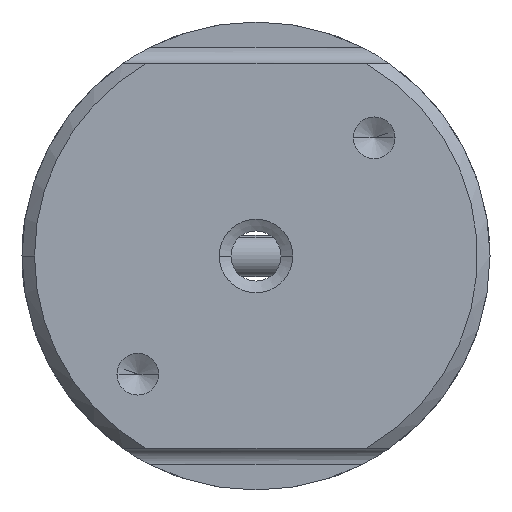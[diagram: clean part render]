
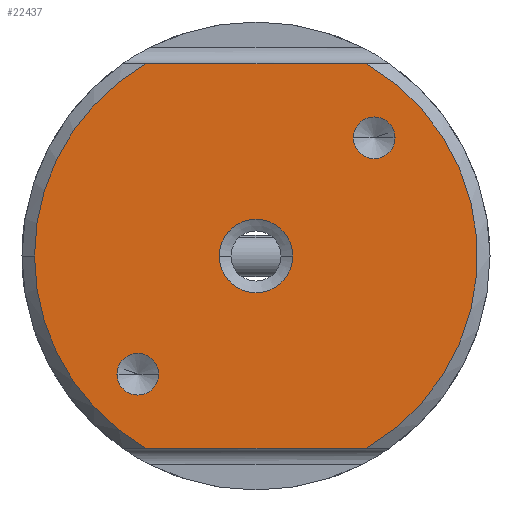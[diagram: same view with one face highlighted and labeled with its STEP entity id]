
A CAD part, front view. The second image highlights one B-rep face of the part: STEP entity #22437.
In plain terms, the highlighted planar face has unit normal (0, -1, 0).
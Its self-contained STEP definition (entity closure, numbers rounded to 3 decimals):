
#101 = CARTESIAN_POINT ( 'NONE',  ( 15., -20.5, 23. ) ) ;
#196 = CARTESIAN_POINT ( 'NONE',  ( 28.162, -20.5, 46. ) ) ;
#473 = VERTEX_POINT ( 'NONE', #4104 ) ;
#797 = EDGE_CURVE ( 'NONE', #8385, #9896, #20610, .T. ) ;
#872 = EDGE_LOOP ( 'NONE', ( #22904, #3312 ) ) ;
#963 = AXIS2_PLACEMENT_3D ( 'NONE', #12380, #1464, #14188 ) ;
#1156 = VECTOR ( 'NONE', #2884, 1000. ) ;
#1274 = EDGE_CURVE ( 'NONE', #21448, #3557, #2728, .T. ) ;
#1393 = AXIS2_PLACEMENT_3D ( 'NONE', #16392, #5504, #18206 ) ;
#1464 = DIRECTION ( 'NONE',  ( 0., 1., 0. ) ) ;
#1676 = AXIS2_PLACEMENT_3D ( 'NONE', #6188, #18896, #8018 ) ;
#1681 = CIRCLE ( 'NONE', #22851, 26.5 ) ;
#1947 = DIRECTION ( 'NONE',  ( 0., 0., 1. ) ) ;
#2400 = CARTESIAN_POINT ( 'NONE',  ( 15., -20.5, 23. ) ) ;
#2674 = ORIENTED_EDGE ( 'NONE', *, *, #22179, .T. ) ;
#2728 = CIRCLE ( 'NONE', #17925, 2.5 ) ;
#2884 = DIRECTION ( 'NONE',  ( 1., 0., 0. ) ) ;
#3312 = ORIENTED_EDGE ( 'NONE', *, *, #1274, .T. ) ;
#3557 = VERTEX_POINT ( 'NONE', #12953 ) ;
#3706 = EDGE_CURVE ( 'NONE', #19503, #21047, #13129, .T. ) ;
#3901 = CARTESIAN_POINT ( 'NONE',  ( 0.858, -20.5, 8.858 ) ) ;
#4104 = CARTESIAN_POINT ( 'NONE',  ( -11.5, -20.5, 23. ) ) ;
#4131 = CARTESIAN_POINT ( 'NONE',  ( 15., -20.5, 23. ) ) ;
#4224 = DIRECTION ( 'NONE',  ( 0., 0., 1. ) ) ;
#4447 = CIRCLE ( 'NONE', #963, 2.5 ) ;
#4739 = CIRCLE ( 'NONE', #14895, 26.5 ) ;
#5504 = DIRECTION ( 'NONE',  ( 0., -1., 0. ) ) ;
#5613 = FACE_OUTER_BOUND ( 'NONE', #17186, .T. ) ;
#5744 = DIRECTION ( 'NONE',  ( 1., 0., 0. ) ) ;
#5866 = ORIENTED_EDGE ( 'NONE', *, *, #19727, .T. ) ;
#5966 = DIRECTION ( 'NONE',  ( -1., 0., 0. ) ) ;
#6188 = CARTESIAN_POINT ( 'NONE',  ( 0.858, -20.5, 8.858 ) ) ;
#6197 = FACE_BOUND ( 'NONE', #872, .T. ) ;
#7138 = CARTESIAN_POINT ( 'NONE',  ( 15., -20.5, 27.4 ) ) ;
#7578 = DIRECTION ( 'NONE',  ( 0., 1., 0. ) ) ;
#7811 = DIRECTION ( 'NONE',  ( 0., -1., 0. ) ) ;
#7932 = AXIS2_PLACEMENT_3D ( 'NONE', #19328, #8450, #21177 ) ;
#8014 = CARTESIAN_POINT ( 'NONE',  ( 28.162, -20.5, 0. ) ) ;
#8018 = DIRECTION ( 'NONE',  ( 1., 0., 0. ) ) ;
#8342 = AXIS2_PLACEMENT_3D ( 'NONE', #3901, #16621, #5744 ) ;
#8370 = PLANE ( 'NONE',  #7932 ) ;
#8385 = VERTEX_POINT ( 'NONE', #13513 ) ;
#8450 = DIRECTION ( 'NONE',  ( 0., -1., 0. ) ) ;
#8935 = ORIENTED_EDGE ( 'NONE', *, *, #8938, .T. ) ;
#8938 = EDGE_CURVE ( 'NONE', #21047, #20402, #1681, .T. ) ;
#9519 = ORIENTED_EDGE ( 'NONE', *, *, #18332, .T. ) ;
#9600 = CIRCLE ( 'NONE', #15597, 4.4 ) ;
#9896 = VERTEX_POINT ( 'NONE', #7138 ) ;
#10301 = ORIENTED_EDGE ( 'NONE', *, *, #13043, .T. ) ;
#10465 = FACE_BOUND ( 'NONE', #21122, .T. ) ;
#12033 = CIRCLE ( 'NONE', #8342, 2.5 ) ;
#12380 = CARTESIAN_POINT ( 'NONE',  ( 29.142, -20.5, 37.142 ) ) ;
#12494 = CARTESIAN_POINT ( 'NONE',  ( -1.642, -20.5, 8.858 ) ) ;
#12848 = DIRECTION ( 'NONE',  ( 0., 1., 0. ) ) ;
#12953 = CARTESIAN_POINT ( 'NONE',  ( 31.642, -20.5, 37.142 ) ) ;
#13043 = EDGE_CURVE ( 'NONE', #16331, #17423, #19706, .T. ) ;
#13129 = LINE ( 'NONE', #19278, #1156 ) ;
#13513 = CARTESIAN_POINT ( 'NONE',  ( 15., -20.5, 18.6 ) ) ;
#14188 = DIRECTION ( 'NONE',  ( 1., 0., 0. ) ) ;
#14374 = EDGE_CURVE ( 'NONE', #473, #19503, #17056, .T. ) ;
#14777 = DIRECTION ( 'NONE',  ( -1., 0., 0. ) ) ;
#14895 = AXIS2_PLACEMENT_3D ( 'NONE', #18691, #7811, #20541 ) ;
#14896 = EDGE_LOOP ( 'NONE', ( #9519, #20763 ) ) ;
#15109 = DIRECTION ( 'NONE',  ( 0., 1., 0. ) ) ;
#15588 = VECTOR ( 'NONE', #14777, 1000. ) ;
#15597 = AXIS2_PLACEMENT_3D ( 'NONE', #101, #12848, #1947 ) ;
#15845 = FACE_BOUND ( 'NONE', #14896, .T. ) ;
#15968 = CARTESIAN_POINT ( 'NONE',  ( 3.358, -20.5, 8.858 ) ) ;
#16331 = VERTEX_POINT ( 'NONE', #15968 ) ;
#16392 = CARTESIAN_POINT ( 'NONE',  ( 15., -20.5, 23. ) ) ;
#16621 = DIRECTION ( 'NONE',  ( 0., 1., 0. ) ) ;
#16848 = DIRECTION ( 'NONE',  ( 0., -1., 0. ) ) ;
#17056 = CIRCLE ( 'NONE', #1393, 26.5 ) ;
#17186 = EDGE_LOOP ( 'NONE', ( #19167, #2674, #21647, #20077, #8935 ) ) ;
#17423 = VERTEX_POINT ( 'NONE', #12494 ) ;
#17571 = EDGE_CURVE ( 'NONE', #20402, #17917, #20446, .T. ) ;
#17783 = CARTESIAN_POINT ( 'NONE',  ( 1.838, -20.5, 46. ) ) ;
#17917 = VERTEX_POINT ( 'NONE', #17783 ) ;
#17925 = AXIS2_PLACEMENT_3D ( 'NONE', #18428, #7578, #20295 ) ;
#18162 = EDGE_CURVE ( 'NONE', #3557, #21448, #4447, .T. ) ;
#18206 = DIRECTION ( 'NONE',  ( -1., 0., 0. ) ) ;
#18332 = EDGE_CURVE ( 'NONE', #9896, #8385, #9600, .T. ) ;
#18360 = CARTESIAN_POINT ( 'NONE',  ( 15., -20.5, 46. ) ) ;
#18428 = CARTESIAN_POINT ( 'NONE',  ( 29.142, -20.5, 37.142 ) ) ;
#18691 = CARTESIAN_POINT ( 'NONE',  ( 15., -20.5, 23. ) ) ;
#18896 = DIRECTION ( 'NONE',  ( 0., 1., 0. ) ) ;
#19167 = ORIENTED_EDGE ( 'NONE', *, *, #17571, .T. ) ;
#19278 = CARTESIAN_POINT ( 'NONE',  ( 15., -20.5, 0. ) ) ;
#19328 = CARTESIAN_POINT ( 'NONE',  ( 41.818, -20.5, 0. ) ) ;
#19503 = VERTEX_POINT ( 'NONE', #21219 ) ;
#19706 = CIRCLE ( 'NONE', #1676, 2.5 ) ;
#19727 = EDGE_CURVE ( 'NONE', #17423, #16331, #12033, .T. ) ;
#20077 = ORIENTED_EDGE ( 'NONE', *, *, #3706, .T. ) ;
#20295 = DIRECTION ( 'NONE',  ( 1., 0., 0. ) ) ;
#20402 = VERTEX_POINT ( 'NONE', #196 ) ;
#20446 = LINE ( 'NONE', #18360, #15588 ) ;
#20541 = DIRECTION ( 'NONE',  ( -1., 0., 0. ) ) ;
#20610 = CIRCLE ( 'NONE', #22074, 4.4 ) ;
#20763 = ORIENTED_EDGE ( 'NONE', *, *, #797, .T. ) ;
#21047 = VERTEX_POINT ( 'NONE', #8014 ) ;
#21122 = EDGE_LOOP ( 'NONE', ( #10301, #5866 ) ) ;
#21177 = DIRECTION ( 'NONE',  ( 0., 0., 1. ) ) ;
#21219 = CARTESIAN_POINT ( 'NONE',  ( 1.838, -20.5, 0. ) ) ;
#21448 = VERTEX_POINT ( 'NONE', #22468 ) ;
#21647 = ORIENTED_EDGE ( 'NONE', *, *, #14374, .T. ) ;
#22074 = AXIS2_PLACEMENT_3D ( 'NONE', #2400, #15109, #4224 ) ;
#22179 = EDGE_CURVE ( 'NONE', #17917, #473, #4739, .T. ) ;
#22437 = ADVANCED_FACE ( 'NONE', ( #15845, #6197, #10465, #5613 ), #8370, .T. ) ;
#22468 = CARTESIAN_POINT ( 'NONE',  ( 26.642, -20.5, 37.142 ) ) ;
#22851 = AXIS2_PLACEMENT_3D ( 'NONE', #4131, #16848, #5966 ) ;
#22904 = ORIENTED_EDGE ( 'NONE', *, *, #18162, .T. ) ;
